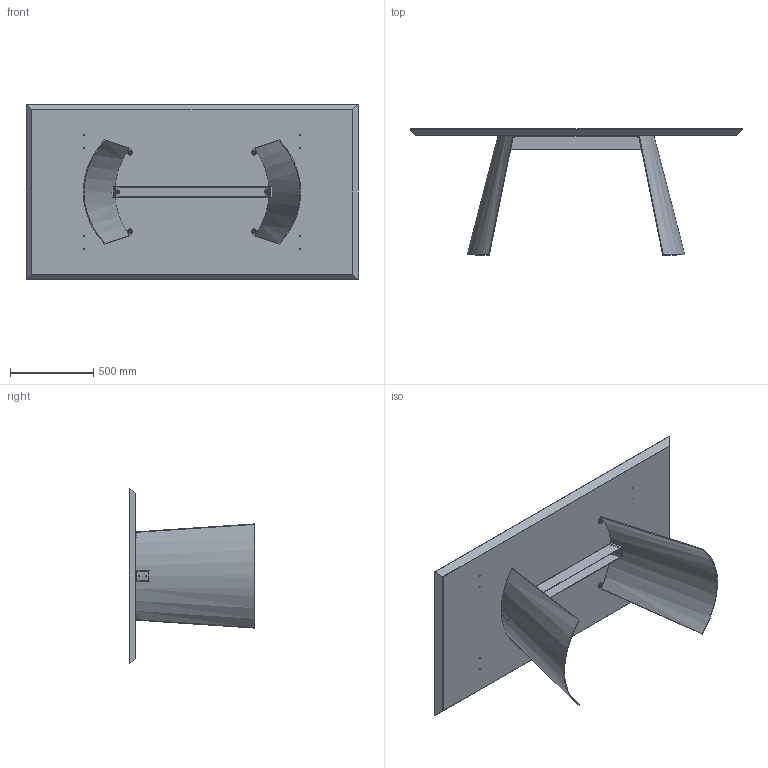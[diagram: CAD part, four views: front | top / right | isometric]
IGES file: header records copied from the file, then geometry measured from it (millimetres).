
Start section: SolidWorks IGES file using analytic representation for surfaces
Global section: file name: Y:\eforma\TECNICO\SOLIDWORKS\E-FORMA\1-TAVOLI\DORIAN\02 parts-rev 01\DN21W.IGS; native system: SolidWorks 2022; preprocessor: SolidWorks 2022; author: eforma.tech; date: 240807.170437; units: millimetre
Bounding box: 2000 x 758 x 1060 mm (x, y, z)
Volume: 82345864.8 mm3; surface area: 6738937.7 mm2
Topology: 36 solids, 36 shells, 626 faces, 1448 edges, 875 vertices
Faces by surface type: revolution 372, plane 236, bspline 18
